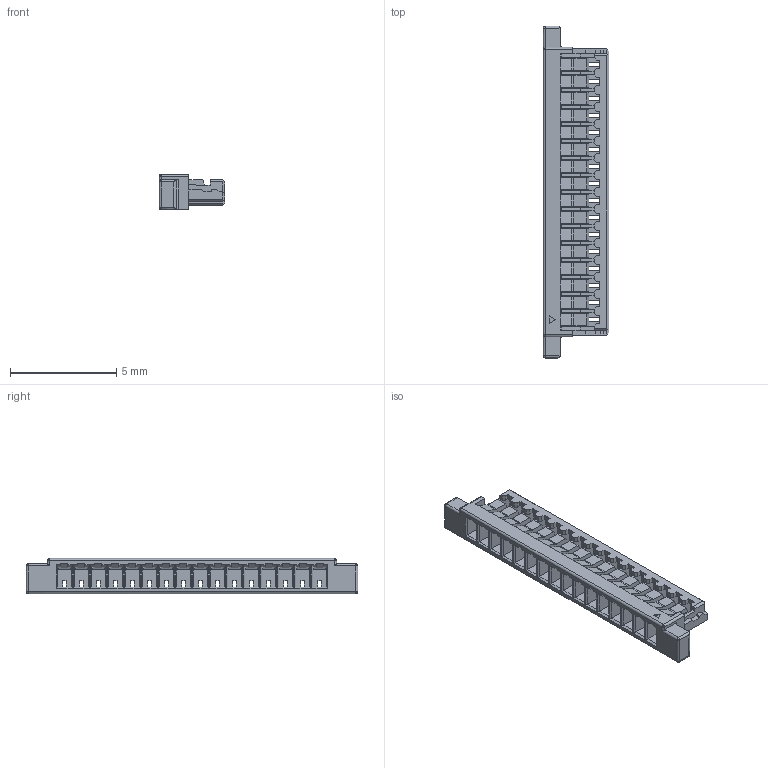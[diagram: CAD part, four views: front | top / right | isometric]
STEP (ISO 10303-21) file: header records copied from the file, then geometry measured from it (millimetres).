
FILE_DESCRIPTION((''),'2;1');
FILE_NAME('SCT0801H-16','2023-04-10T17:16:25',('Administrator'),(''),'CREO PARAMETRIC BY PTC INC, 2018050','CREO PARAMETRIC BY PTC INC, 2018050','');
FILE_SCHEMA(('CONFIG_CONTROL_DESIGN'));
Length unit declared in the file: millimetre
Products named in the file (1): SCT0801H-16
Bounding box: 3.1 x 15.6 x 1.65 mm (x, y, z)
Volume: 27.9 mm3; surface area: 286.2 mm2
Topology: 1 solids, 1 shells, 802 faces, 2223 edges, 1366 vertices
Faces by surface type: plane 722, cylinder 68, sphere 12
Entity records: 25004 total; most frequent: CARTESIAN_POINT 4683, ORIENTED_EDGE 4426, DIRECTION 3859, EDGE_CURVE 2213, VECTOR 2053, LINE 2053, VERTEX_POINT 1366, AXIS2_PLACEMENT_3D 903
